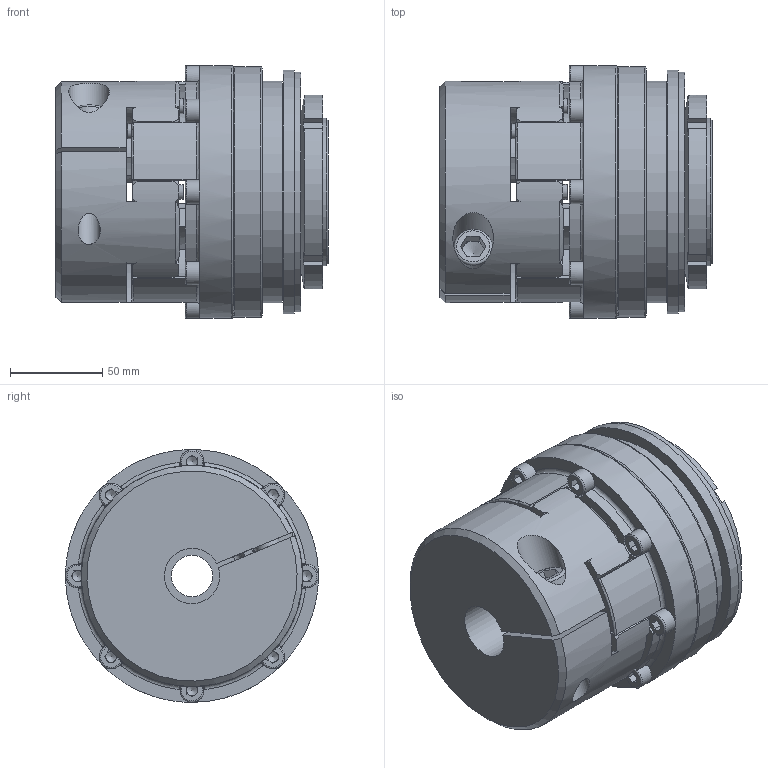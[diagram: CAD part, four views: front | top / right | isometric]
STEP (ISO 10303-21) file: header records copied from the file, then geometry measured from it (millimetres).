
FILE_DESCRIPTION( ( 'Unknown' ), '1' );
FILE_NAME( 'F:/JAKOB-STEP+IGES-Dateien/STEP-Dateien/SKW-EK/SKW-EK 500.stp', 'Unknown', ( 'Unknown' ), ( 'Unknown' ), 'PSStep 10.1', 'Unknown', ' ' );
FILE_SCHEMA( ( 'AUTOMOTIVE_DESIGN { 1 0 10303 214 1 1 1 1 }' ) );
Length unit declared in the file: millimetre
Products named in the file (1): kt100627
Bounding box: 147.5 x 137 x 137 mm (x, y, z)
Volume: 1458527.9 mm3; surface area: 222094.4 mm2
Topology: 1 solids, 13 shells, 552 faces, 1565 edges, 1012 vertices
Faces by surface type: plane 232, cylinder 156, torus 82, cone 66, sphere 16
Full cylindrical faces by diameter (mm): 2.5 x2, 4.2 x3, 6.8 x8, 8 x16, 8.6 x8, 12 x1, 13 x8, 14 x1, 14.5 x1, 15 x1, 21 x1, 22 x1, 22.5 x1, 26 x1, 58 x2, 67 x1, 69.8 x1, 70 x2, 73 x1, 80 x2, 80.3 x1, 82.8 x2, 97.6 x2, 110 x3, 116 x2, 120 x1, 130 x1, 132 x1, 136 x1, 137 x1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
Entity records: 23456 total; most frequent: CARTESIAN_POINT 5909, DIRECTION 2698, ORIENTED_EDGE 2640, EDGE_CURVE 1320, AXIS2_PLACEMENT_3D 1139, VERTEX_POINT 914, EDGE_LOOP 755, FACE_OUTER_BOUND 639
